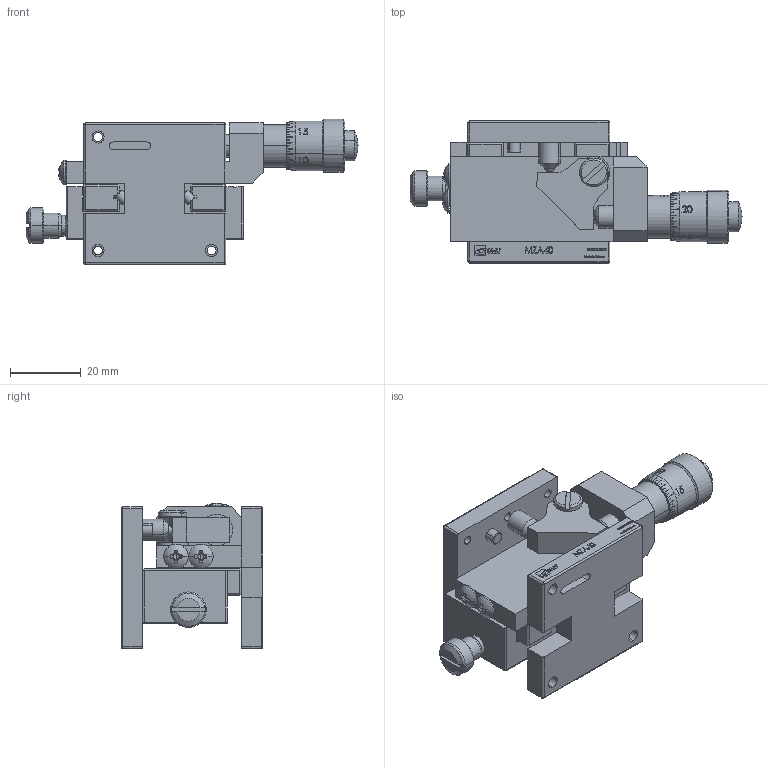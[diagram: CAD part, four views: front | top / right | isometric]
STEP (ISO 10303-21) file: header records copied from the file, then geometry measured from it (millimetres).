
FILE_DESCRIPTION (( 'STEP AP203' ), '1' );
FILE_NAME ('MZA-40-(«¬¿ý).STEP', '2013-10-07T02:41:09', ( '' ), ( '' ), 'SwSTEP 2.0', 'SolidWorks 2013', '' );
FILE_SCHEMA (( 'CONFIG_CONTROL_DESIGN' ));
Length unit declared in the file: millimetre
Products named in the file (3): Group1^MZA-40-(型錄); Group2^MZA-40-(型錄); MZA-40-(型錄)
Assembly tree (2 placements, depth 2):
  MZA-40-(型錄)
    Group1^MZA-40-(型錄)
    Group2^MZA-40-(型錄)
Bounding box: 93.55 x 40 x 41 mm (x, y, z)
Volume: 51690.7 mm3; surface area: 25014.7 mm2
Topology: 12 solids, 12 shells, 1267 faces, 3418 edges, 2257 vertices
Faces by surface type: plane 832, cylinder 192, bspline 155, cone 48, sphere 22, torus 18
Entity records: 46667 total; most frequent: CARTESIAN_POINT 15409, ORIENTED_EDGE 6800, DIRECTION 5770, EDGE_CURVE 3400, VERTEX_POINT 2257, VECTOR 2218, LINE 2218, AXIS2_PLACEMENT_3D 1776
